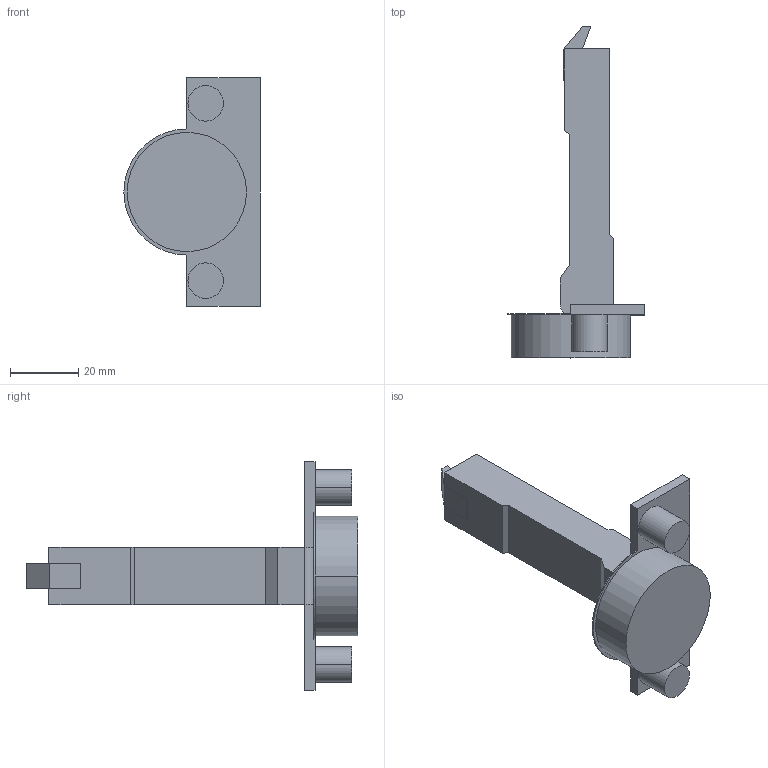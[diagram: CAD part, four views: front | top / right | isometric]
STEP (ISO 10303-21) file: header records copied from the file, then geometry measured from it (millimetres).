
FILE_DESCRIPTION (( 'STEP AP214' ), '1' );
FILE_NAME ('Scharnier T Click-on 100° H_BB, Dübel.step', '2014-04-09T06:29:30', ( '' ), ( '' ), 'SwSTEP 2.0', 'SolidWorks 2013', '' );
FILE_SCHEMA (( 'AUTOMOTIVE_DESIGN' ));
Length unit declared in the file: millimetre
Products named in the file (1): Scharnier T Click-on 100° H_BB, Dübel
Bounding box: 40 x 97.4 x 67 mm (x, y, z)
Volume: 35145.5 mm3; surface area: 11434.4 mm2
Topology: 1 solids, 1 shells, 55 faces, 135 edges, 90 vertices
Faces by surface type: plane 36, cylinder 19
Entity records: 1661 total; most frequent: DIRECTION 285, CARTESIAN_POINT 281, ORIENTED_EDGE 270, EDGE_CURVE 135, VECTOR 97, LINE 97, AXIS2_PLACEMENT_3D 94, VERTEX_POINT 90
